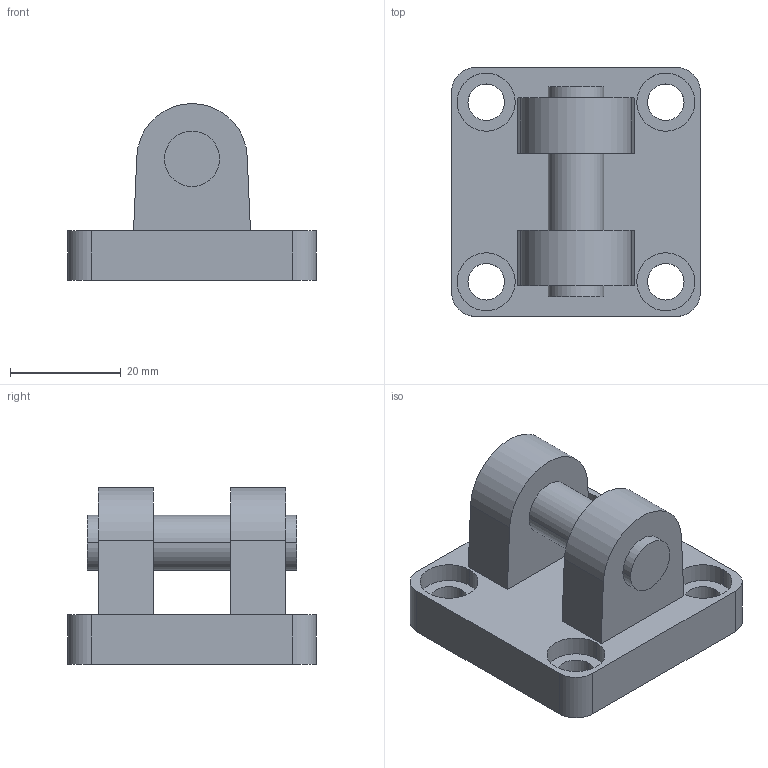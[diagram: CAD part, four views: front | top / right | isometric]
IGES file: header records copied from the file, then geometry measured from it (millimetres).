
Global section: file name: No Iges File Name specified; native system: AutoDesk Inventor R11.0; preprocessor: AutoDesk Inventor Iges Exporter R11.0; author: No Author specified; organization: No Organization specified; date: 20060711.153824; units: millimetre
Bounding box: 45 x 45 x 32 mm (x, y, z)
Volume: 22494.7 mm3; surface area: 9521.6 mm2
Topology: 1 solids, 1 shells, 51 faces, 120 edges, 80 vertices
Faces by surface type: bspline 23, plane 16, cylinder 12
